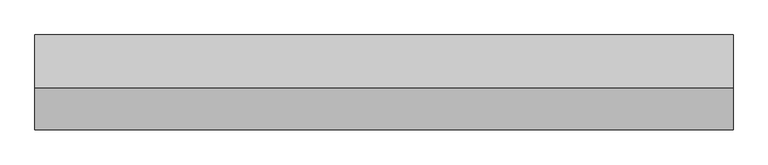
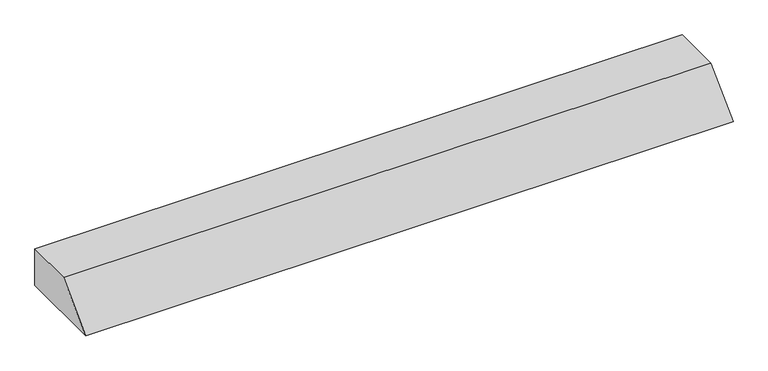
"""IFC4 building model written with IfcOpenShell, lengths in millimetres: proxy geometry, Gousset radier bord droit : Gousset radier bord droit."""

from ifc_helpers import new_model, si_unit, frame, origin, place, context, project, spatial, polyline, outline, extrude, source, transform, mapped, element, save


def generic_models_ab7b40e1(model_context):
    return source(origin(), model_context, "Body", "SweptSolid", [
        extrude(outline(polyline([(0.0, 0.0), (-800.0, 0.0), (-450.0, 350.0), (0.0, 350.0), (0.0, 0.0)])), frame((0.0, 0.0, 0.0), z_axis=(1.0, 0.0, 0.0), x_axis=(0.0, 1.0, 0.0)), (0.0, 0.0, 1.0), 5877.156852),
    ])


if __name__ == "__main__":
    model = new_model("IFC4")
    model_context = context("Model", 3, world=origin())
    ifc_project = project(units=[si_unit("LENGTHUNIT", "METRE", prefix="MILLI")], contexts=[model_context])
    site = spatial("IfcSite", under=ifc_project)
    building = spatial("IfcBuilding", under=site)
    placement = place(None, origin())
    generic_models_shape = generic_models_ab7b40e1(model_context)
    element("IfcBuildingElementProxy", 1, Name="Gousset radier bord droit : Gousset radier bord droit", ObjectType="Gousset radier bord droit : Gousset radier bord droit", at=placement, inside=building, context=model_context, shape_type="MappedRepresentation", body=[
        mapped(generic_models_shape, transform((0.0, 0.0, 0.0), x_axis=(1.0, 0.0, 0.0), y_axis=(0.0, 1.0, 0.0), z_axis=(0.0, 0.0, 1.0))),
    ])
    save(model, "model.ifc")
